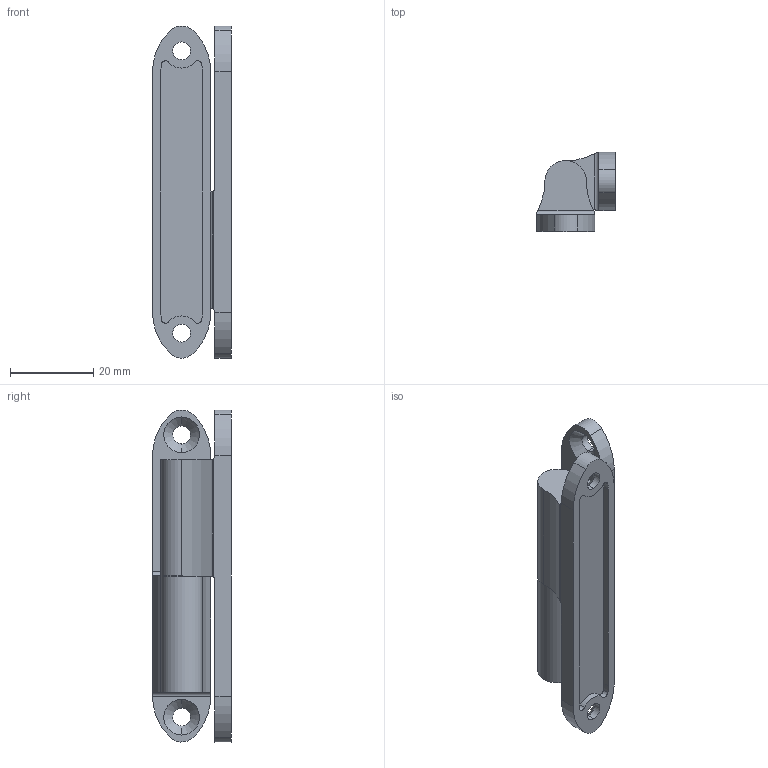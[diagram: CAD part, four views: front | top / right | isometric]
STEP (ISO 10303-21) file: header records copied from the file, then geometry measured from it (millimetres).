
FILE_DESCRIPTION (( 'STEP AP214' ), '1' );
FILE_NAME ('SK2-029S.STEP', '2020-04-15T06:15:09', ( 'admin' ), ( 'Microsoft' ), 'SwSTEP 2.0', 'SolidWorks 2018', '' );
FILE_SCHEMA (( 'AUTOMOTIVE_DESIGN' ));
Length unit declared in the file: millimetre
Products named in the file (3): SK2-029S; 2-029S-F2; 2-029S-F1
Assembly tree (2 placements, depth 2):
  SK2-029S
    2-029S-F1
    2-029S-F2
Bounding box: 19 x 19 x 79.97 mm (x, y, z)
Volume: 13434.6 mm3; surface area: 9630.7 mm2
Topology: 3 solids, 3 shells, 93 faces, 238 edges, 154 vertices
Faces by surface type: cylinder 60, plane 23, cone 10
Entity records: 3017 total; most frequent: DIRECTION 540, CARTESIAN_POINT 538, ORIENTED_EDGE 476, EDGE_CURVE 238, AXIS2_PLACEMENT_3D 220, VERTEX_POINT 154, CIRCLE 122, EDGE_LOOP 106
